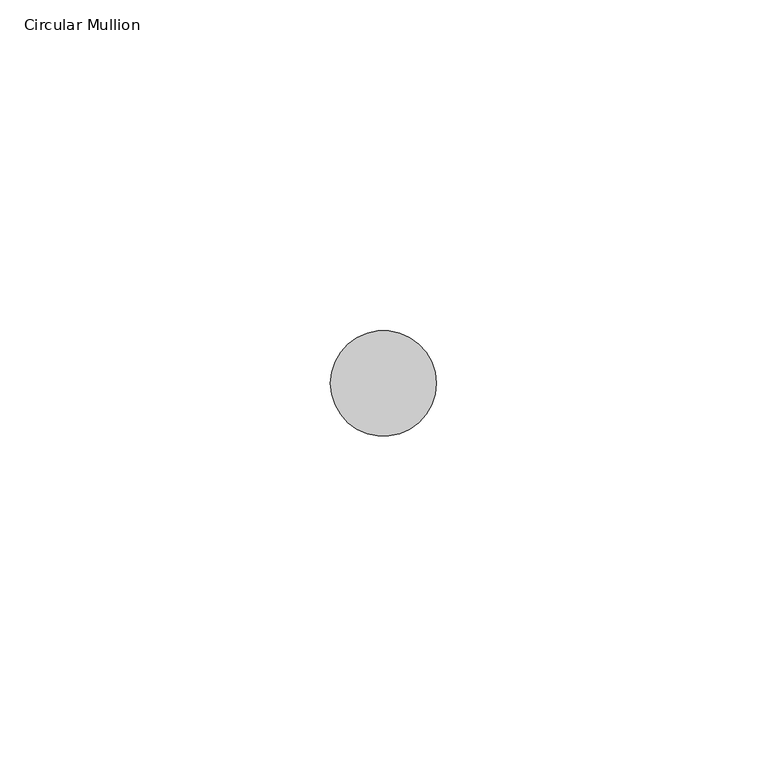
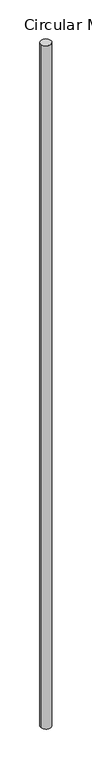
"""IFC4 building model written with IfcOpenShell, lengths in millimetres: member geometry, Circular Mullion : ARQ_HERR_16mm."""

from ifc_helpers import new_model, si_unit, point, frame, origin, origin_2d, place, context, project, spatial, circle_curve, trimmed, segment, composite_curve, outline, extrude, source, transform, mapped, element, save


def circular_mullion_aad16848(model_context):
    return source(origin(), model_context, "Body", "SweptSolid", [
        extrude(outline(composite_curve([segment(trimmed(circle_curve(origin_2d(), 8.0), [point((8.0, 0.0))], [point((-8.0, 0.0))], False, "CARTESIAN"), True, "CONTINUOUS"), segment(trimmed(circle_curve(origin_2d(), 8.0), [point((-8.0, 0.0))], [point((8.0, 0.0))], False, "CARTESIAN"), True, "CONTINUOUS")], self_intersect=False)), frame((0.0, 0.0, -1106.6872549), z_axis=(0.0, 0.0, 1.0), x_axis=(1.0, 0.0, 0.0)), (0.0, 0.0, 1.0), 1106.6872549),
    ])


if __name__ == "__main__":
    model = new_model("IFC4")
    model_context = context("Model", 3, world=origin())
    ifc_project = project(units=[si_unit("LENGTHUNIT", "METRE", prefix="MILLI")], contexts=[model_context])
    site = spatial("IfcSite", under=ifc_project)
    building = spatial("IfcBuilding", under=site)
    placement = place(None, origin())
    circular_mullion_shape = circular_mullion_aad16848(model_context)
    element("IfcMember", 1, ObjectType="Circular Mullion : ARQ_HERR_16mm", at=placement, inside=building, context=model_context, shape_type="MappedRepresentation", body=[
        mapped(circular_mullion_shape, transform((0.0, 0.0, 0.0), x_axis=(1.0, 0.0, 0.0), y_axis=(0.0, 1.0, 0.0), z_axis=(0.0, 0.0, 1.0))),
    ])
    save(model, "model.ifc")
